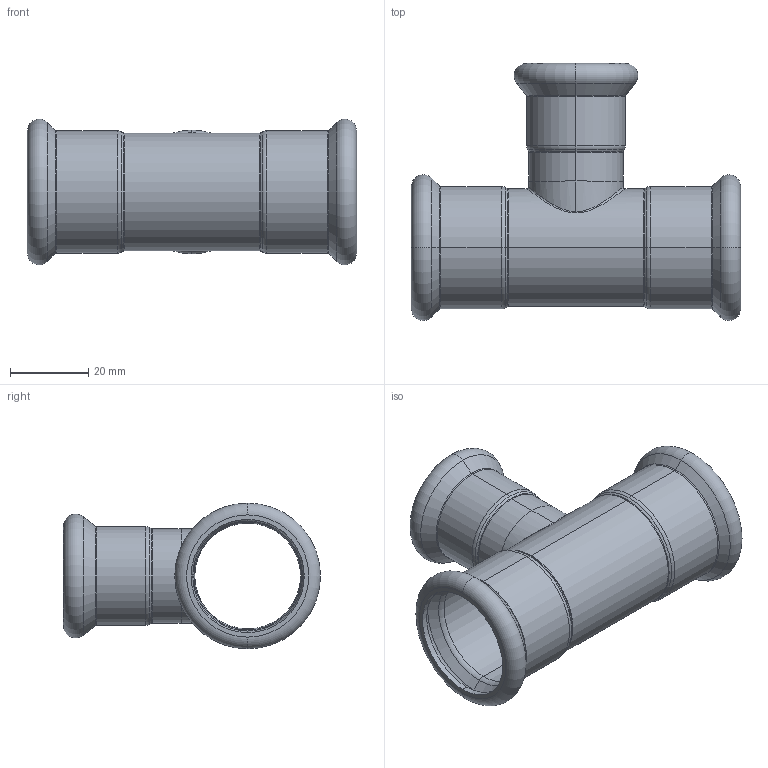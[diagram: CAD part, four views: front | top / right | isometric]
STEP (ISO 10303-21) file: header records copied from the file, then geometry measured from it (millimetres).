
FILE_DESCRIPTION (( 'STEP AP203' ), '1' );
FILE_NAME ('GDA5196.STEP', '2019-01-12T05:51:43', ( '' ), ( '' ), 'SwSTEP 2.0', 'SolidWorks 2015', '' );
FILE_SCHEMA (( 'CONFIG_CONTROL_DESIGN' ));
Length unit declared in the file: millimetre
Products named in the file (3): T(R)-¢ñ-28¡Á22''; GDA5196; T-ｉ-01-22
Assembly tree (2 placements, depth 2):
  GDA5196
    T(R)-¢ñ-28¡Á22''
    T-ｉ-01-22
Bounding box: 84 x 65.6 x 37.19 mm (x, y, z)
Volume: 16379.2 mm3; surface area: 22441 mm2
Topology: 2 solids, 2 shells, 114 faces, 234 edges, 128 vertices
Faces by surface type: torus 48, cylinder 30, cone 24, plane 8, bspline 4
Entity records: 4342 total; most frequent: CARTESIAN_POINT 1552, DIRECTION 620, ORIENTED_EDGE 468, AXIS2_PLACEMENT_3D 283, EDGE_CURVE 234, CIRCLE 168, VERTEX_POINT 128, EDGE_LOOP 124
